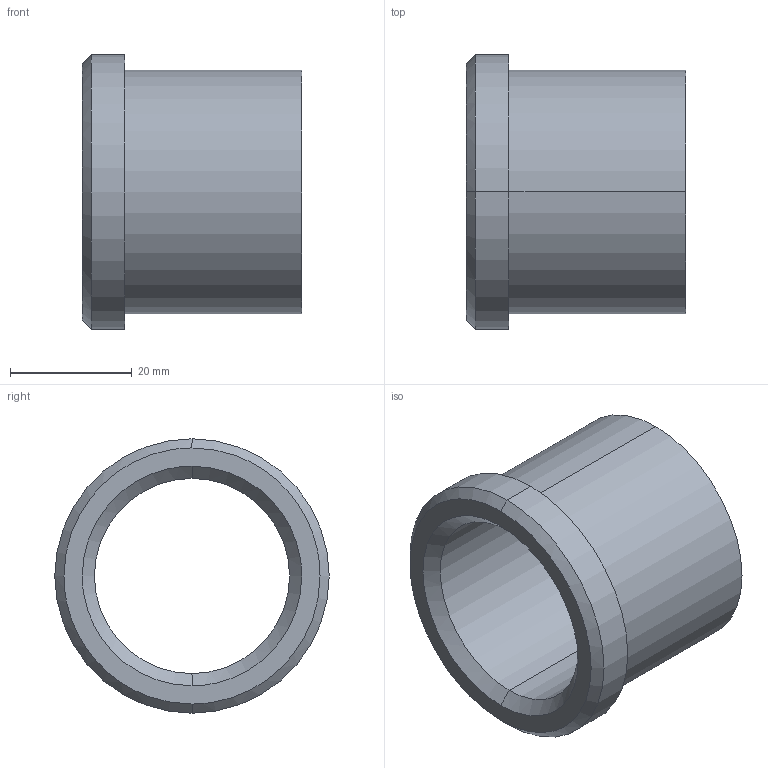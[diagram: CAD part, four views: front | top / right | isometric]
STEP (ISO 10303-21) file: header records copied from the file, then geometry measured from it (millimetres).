
FILE_DESCRIPTION(('CATIA V5 STEP Exchange'),'2;1');
FILE_NAME('C:\Users\Utente\Desktop\IO LAVORO\3D X SITO CF\X SITO\PLASTICA\353\353-32X36.stp','2021-05-12T18:57:51+00:00',('none'),('none'),'CATIA Version 5 Release 20 GA (IN-10)','CATIA V5 STEP AP203','none');
FILE_SCHEMA(('CONFIG_CONTROL_DESIGN'));
Length unit declared in the file: millimetre
Products named in the file (1): 353-32X36
Bounding box: 36 x 45 x 45 mm (x, y, z)
Volume: 18168.9 mm3; surface area: 9501.1 mm2
Topology: 1 solids, 1 shells, 15 faces, 48 edges, 36 vertices
Faces by surface type: cylinder 6, cone 4, plane 3, torus 2
Entity records: 680 total; most frequent: CARTESIAN_POINT 212, ORIENTED_EDGE 96, DIRECTION 70, EDGE_CURVE 48, AXIS2_PLACEMENT_3D 46, VERTEX_POINT 36, CIRCLE 30, EDGE_LOOP 18
